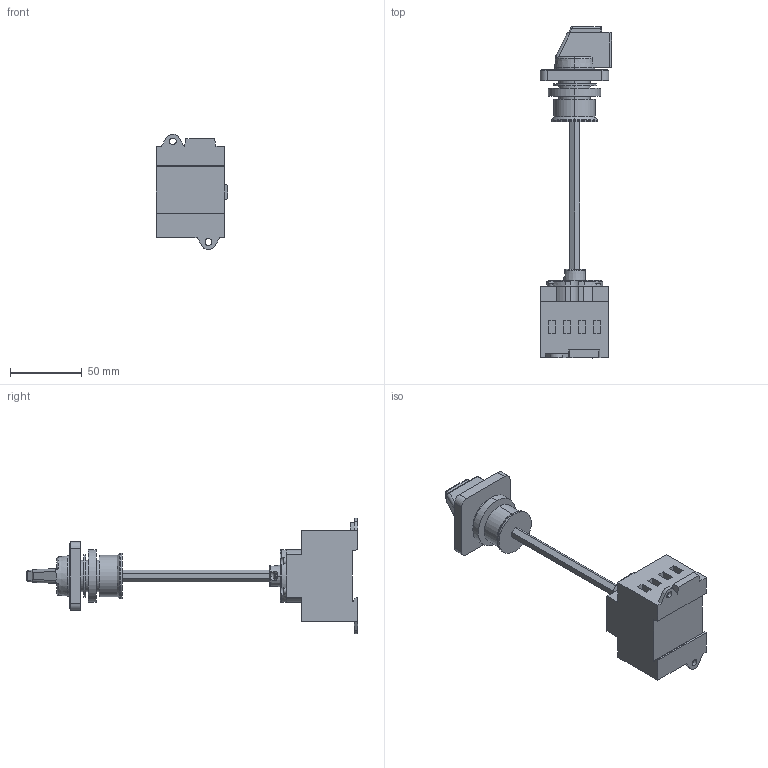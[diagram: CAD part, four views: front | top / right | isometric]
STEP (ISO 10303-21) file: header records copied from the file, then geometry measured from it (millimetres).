
FILE_DESCRIPTION (( 'STEP AP203' ), '1' );
FILE_NAME ('LTS20_25_32_40 VZVH1 A3.STEP', '2014-05-13T12:16:40', ( '' ), ( '' ), 'SwSTEP 2.0', 'SolidWorks 2014', '' );
FILE_SCHEMA (( 'CONFIG_CONTROL_DESIGN' ));
Length unit declared in the file: millimetre
Products named in the file (6): Achse TK-LT_100_300; TK2Z H1; LTS20_25_32_40 VZVH1 A3; Schalterkörper LTS20_40 V; Zwischenring; 8184
Assembly tree (5 placements, depth 2):
  LTS20_25_32_40 VZVH1 A3
    Schalterkörper LTS20_40 V
    Zwischenring
    8184
    Achse TK-LT_100_300
    TK2Z H1
Bounding box: 49.97 x 232.1 x 80.8 mm (x, y, z)
Volume: 184635.7 mm3; surface area: 43736.3 mm2
Topology: 5 solids, 5 shells, 426 faces, 1081 edges, 702 vertices
Faces by surface type: plane 224, cylinder 118, bspline 53, cone 24, torus 7
Entity records: 16154 total; most frequent: CARTESIAN_POINT 5459, ORIENTED_EDGE 2154, DIRECTION 1995, EDGE_CURVE 1077, VERTEX_POINT 702, AXIS2_PLACEMENT_3D 692, LINE 611, VECTOR 611
